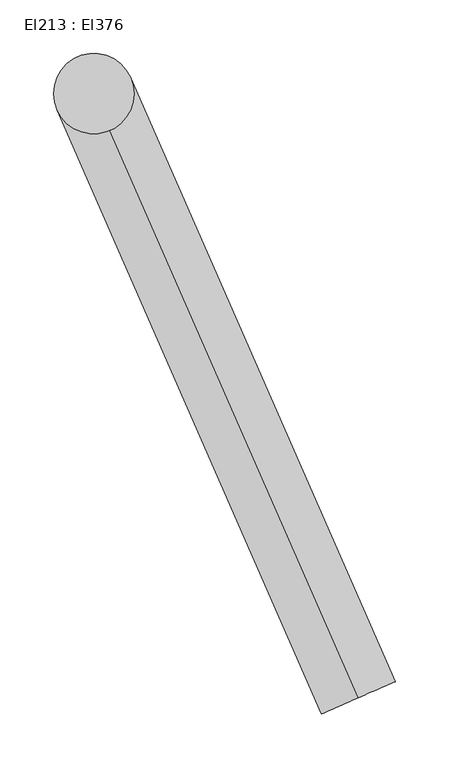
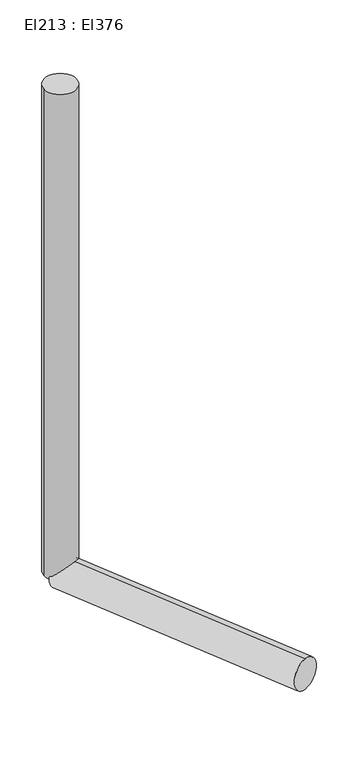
"""IFC4 building model written with IfcOpenShell, lengths in millimetres: cable carrier segment geometry, El213 : El376."""

from ifc_helpers import new_model, si_unit, point, frame, frame_2d, origin, place, context, project, spatial, circle_curve, trimmed, segment, composite_curve, outline, extrude, source, transform, mapped, element, save


def el213_el376_55cabb44(model_context):
    return source(origin(), model_context, "Body", "SweptSolid", [
        extrude(outline(composite_curve([segment(trimmed(circle_curve(frame_2d((0.0, -37.5)), 37.5), [point((0.0, -75.0))], [point((0.0, 0.0))], False, "CARTESIAN"), True, "CONTINUOUS"), segment(trimmed(circle_curve(frame_2d((0.0, -37.5)), 37.5), [point((0.0, 0.0))], [point((0.0, -75.0))], False, "CARTESIAN"), True, "CONTINUOUS")], self_intersect=False)), frame((5661.0644604, 17449.1555555, 1537.5), z_axis=(-0.40127811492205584, 0.9159562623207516, 0.0), x_axis=(-0.9159562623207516, -0.40127811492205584, 0.0)), (0.0, 0.0, 1.0), 614.506),
        extrude(outline(composite_curve([segment(trimmed(circle_curve(frame_2d((5414.4766511, 18012.0161745)), 37.5), [point((5376.9766511, 18012.0161745))], [point((5451.9766511, 18012.0161745))], False, "CARTESIAN"), True, "CONTINUOUS"), segment(trimmed(circle_curve(frame_2d((5414.4766511, 18012.0161745)), 37.5), [point((5451.9766511, 18012.0161745))], [point((5376.9766511, 18012.0161745))], False, "CARTESIAN"), True, "CONTINUOUS")], self_intersect=False)), frame((0.0, 0.0, 1500.0), z_axis=(0.0, 0.0, 1.0), x_axis=(1.0, 0.0, 0.0)), (0.0, 0.0, 1.0), 1200.0),
    ])


if __name__ == "__main__":
    model = new_model("IFC4")
    model_context = context("Model", 3, world=origin())
    ifc_project = project(units=[si_unit("LENGTHUNIT", "METRE", prefix="MILLI")], contexts=[model_context])
    site = spatial("IfcSite", under=ifc_project)
    building = spatial("IfcBuilding", under=site)
    placement = place(None, origin())
    el213_el376_shape = el213_el376_55cabb44(model_context)
    element("IfcCableCarrierSegment", 1, ObjectType="El213 : El376", at=placement, inside=building, context=model_context, shape_type="MappedRepresentation", body=[
        mapped(el213_el376_shape, transform((0.0, 0.0, 0.0), x_axis=(1.0, 0.0, 0.0), y_axis=(0.0, 1.0, 0.0), z_axis=(0.0, 0.0, 1.0))),
    ])
    save(model, "model.ifc")
